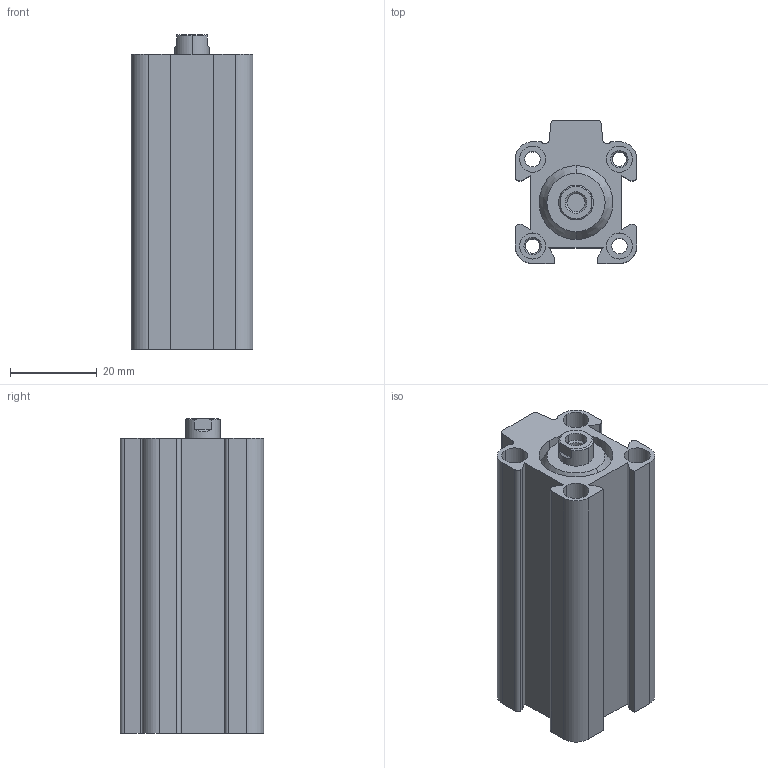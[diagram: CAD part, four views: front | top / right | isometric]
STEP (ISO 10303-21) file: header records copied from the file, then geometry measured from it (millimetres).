
FILE_DESCRIPTION((''),'2;1');
FILE_NAME('0822010615_ASM','2015-07-01T',('vol1hc'),(''),'PRO/ENGINEER BY PARAMETRIC TECHNOLOGY CORPORATION, 2012421','PRO/ENGINEER BY PARAMETRIC TECHNOLOGY CORPORATION, 2012421','');
FILE_SCHEMA(('CONFIG_CONTROL_DESIGN','SHAPE_APPEARANCE_LAYERS_GROUPS'));
Length unit declared in the file: millimetre
Products named in the file (3): 0822010615-A; 0822010615-B; 0822010615_ASM
Assembly tree (2 placements, depth 2):
  0822010615_ASM
    0822010615-A
    0822010615-B
Bounding box: 28 x 33 x 72.5 mm (x, y, z)
Volume: 39568.7 mm3; surface area: 21487.2 mm2
Topology: 2 solids, 2 shells, 144 faces, 334 edges, 214 vertices
Faces by surface type: cylinder 62, plane 54, cone 24, torus 4
Entity records: 4270 total; most frequent: DIRECTION 784, CARTESIAN_POINT 727, ORIENTED_EDGE 668, EDGE_CURVE 334, AXIS2_PLACEMENT_3D 307, VERTEX_POINT 214, EDGE_LOOP 172, VECTOR 170
